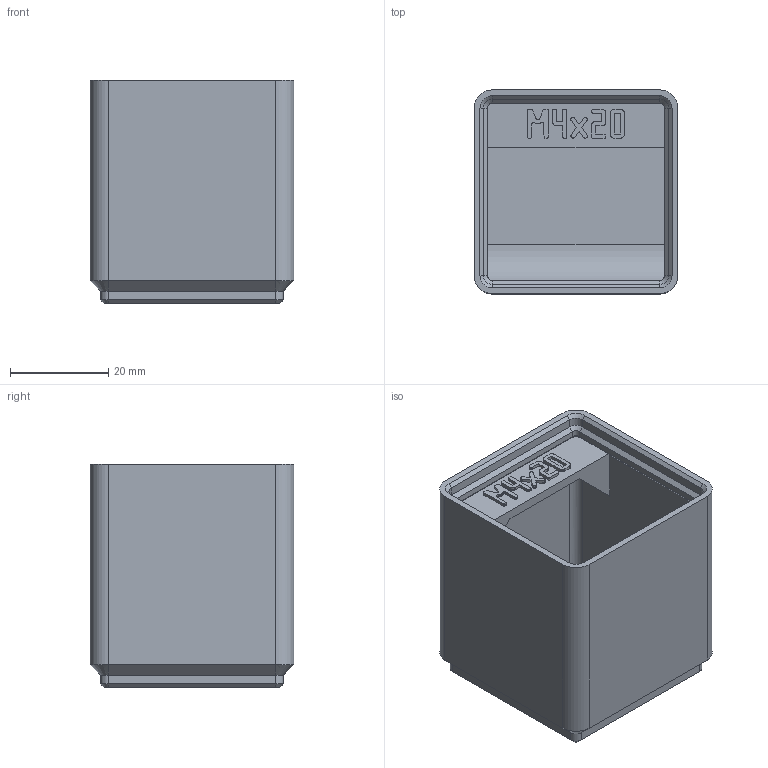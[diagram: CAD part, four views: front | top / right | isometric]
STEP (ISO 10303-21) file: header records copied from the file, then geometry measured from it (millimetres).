
FILE_DESCRIPTION(('Open CASCADE Model'),'2;1');
FILE_NAME('Open CASCADE Shape Model','2026-11-03T10:36:22',('Author'),( 'Open CASCADE'),'Open CASCADE STEP processor 8.0','build123d', 'Unknown');
FILE_SCHEMA(('AUTOMOTIVE_DESIGN { 1 0 10303 214 1 1 1 1 }'));
Length unit declared in the file: millimetre
Products named in the file (1): COMPOUND
Bounding box: 41.5 x 41.5 x 45.55 mm (x, y, z)
Volume: 24945.5 mm3; surface area: 16512.3 mm2
Topology: 1 solids, 1 shells, 581 faces, 1656 edges, 1084 vertices
Faces by surface type: plane 540, cylinder 21, cone 20
Entity records: 39121 total; most frequent: CARTESIAN_POINT 8148, DIRECTION 4979, LINE 3700, VECTOR 3700, ORIENTED_EDGE 3312, PCURVE 3312, DEFINITIONAL_REPRESENTATION 3312, EDGE_CURVE 1656
